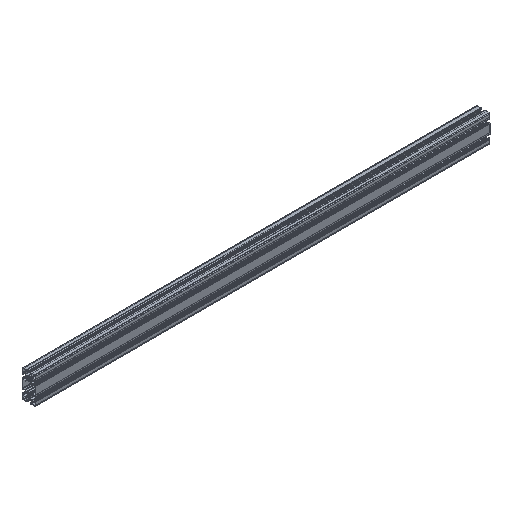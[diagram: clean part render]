
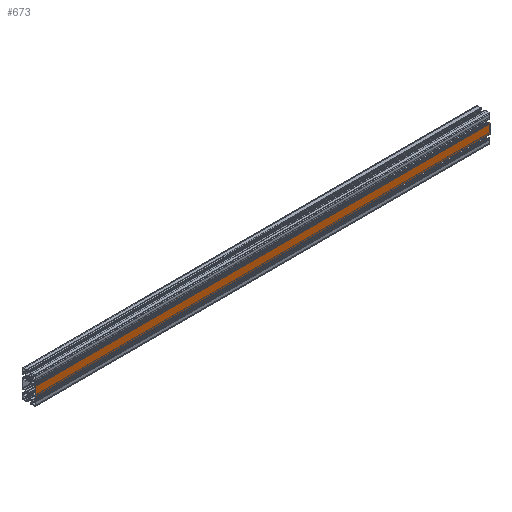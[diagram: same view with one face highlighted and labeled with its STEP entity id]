
A CAD part, isometric view. The second image highlights one B-rep face of the part: STEP entity #673.
In plain terms, the highlighted planar face has unit normal (0, -1, 0).
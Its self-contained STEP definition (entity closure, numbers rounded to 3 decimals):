
#60 = CARTESIAN_POINT ( 'NONE',  ( 1000., -15., -25.65 ) ) ;
#345 = CARTESIAN_POINT ( 'NONE',  ( 1000., -15., -4.35 ) ) ;
#673 = ADVANCED_FACE ( 'NONE', ( #771 ), #940, .F. ) ;
#771 = FACE_OUTER_BOUND ( 'NONE', #2906, .T. ) ;
#775 = DIRECTION ( 'NONE',  ( 0., 0., -1. ) ) ;
#940 = PLANE ( 'NONE',  #2728 ) ;
#1135 = LINE ( 'NONE', #3859, #2601 ) ;
#1290 = VECTOR ( 'NONE', #4430, 1000. ) ;
#1676 = CARTESIAN_POINT ( 'NONE',  ( 1000., -15., -25.65 ) ) ;
#1807 = LINE ( 'NONE', #345, #7517 ) ;
#2376 = LINE ( 'NONE', #8480, #1290 ) ;
#2402 = DIRECTION ( 'NONE',  ( 0., 0., 1. ) ) ;
#2601 = VECTOR ( 'NONE', #6740, 1000. ) ;
#2728 = AXIS2_PLACEMENT_3D ( 'NONE', #1676, #6682, #2402 ) ;
#2749 = EDGE_CURVE ( 'NONE', #7702, #8183, #2376, .T. ) ;
#2906 = EDGE_LOOP ( 'NONE', ( #5612, #3675, #6416, #6969 ) ) ;
#2967 = VECTOR ( 'NONE', #775, 1000. ) ;
#2990 = EDGE_CURVE ( 'NONE', #9037, #7038, #5106, .T. ) ;
#3675 = ORIENTED_EDGE ( 'NONE', *, *, #6791, .F. ) ;
#3859 = CARTESIAN_POINT ( 'NONE',  ( 1000., -15., -25.65 ) ) ;
#4430 = DIRECTION ( 'NONE',  ( 0., 0., -1. ) ) ;
#5106 = LINE ( 'NONE', #60, #2967 ) ;
#5359 = DIRECTION ( 'NONE',  ( -1., 0., 0. ) ) ;
#5612 = ORIENTED_EDGE ( 'NONE', *, *, #2749, .T. ) ;
#6162 = CARTESIAN_POINT ( 'NONE',  ( 1000., -15., -4.35 ) ) ;
#6416 = ORIENTED_EDGE ( 'NONE', *, *, #2990, .F. ) ;
#6646 = CARTESIAN_POINT ( 'NONE',  ( 1000., -15., -25.65 ) ) ;
#6682 = DIRECTION ( 'NONE',  ( 0., 1., 0. ) ) ;
#6740 = DIRECTION ( 'NONE',  ( -1., 0., 0. ) ) ;
#6791 = EDGE_CURVE ( 'NONE', #7038, #8183, #1135, .T. ) ;
#6969 = ORIENTED_EDGE ( 'NONE', *, *, #7154, .T. ) ;
#7023 = CARTESIAN_POINT ( 'NONE',  ( 0., -15., -25.65 ) ) ;
#7038 = VERTEX_POINT ( 'NONE', #6646 ) ;
#7154 = EDGE_CURVE ( 'NONE', #9037, #7702, #1807, .T. ) ;
#7517 = VECTOR ( 'NONE', #5359, 1000. ) ;
#7702 = VERTEX_POINT ( 'NONE', #8562 ) ;
#8183 = VERTEX_POINT ( 'NONE', #7023 ) ;
#8480 = CARTESIAN_POINT ( 'NONE',  ( 0., -15., -25.65 ) ) ;
#8562 = CARTESIAN_POINT ( 'NONE',  ( 0., -15., -4.35 ) ) ;
#9037 = VERTEX_POINT ( 'NONE', #6162 ) ;
